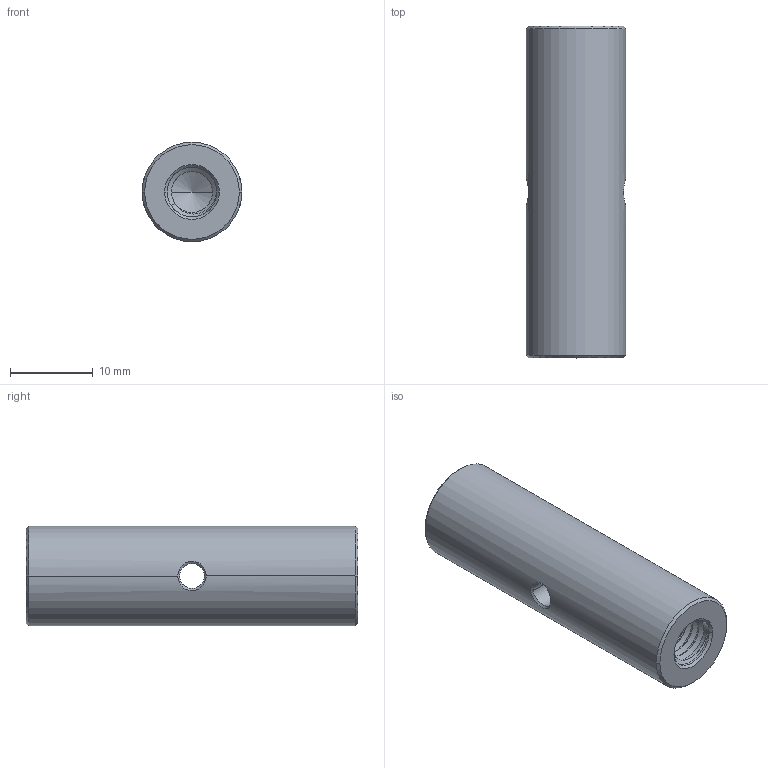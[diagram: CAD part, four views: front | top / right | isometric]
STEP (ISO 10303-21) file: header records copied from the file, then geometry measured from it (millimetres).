
FILE_DESCRIPTION((''),'2;1');
FILE_NAME('PCA4-S1','2020-12-11T',('Administrator'),(''),'CREO PARAMETRIC BY PTC INC, 2015290','CREO PARAMETRIC BY PTC INC, 2015290','');
FILE_SCHEMA(('CONFIG_CONTROL_DESIGN'));
Length unit declared in the file: millimetre
Products named in the file (1): PCA4-S1
Bounding box: 12 x 40 x 12 mm (x, y, z)
Volume: 4130 mm3; surface area: 2162.5 mm2
Topology: 1 solids, 1 shells, 76 faces, 204 edges, 126 vertices
Faces by surface type: cylinder 39, bspline 22, cone 12, plane 3
Entity records: 5747 total; most frequent: CARTESIAN_POINT 4094, ORIENTED_EDGE 400, DIRECTION 224, EDGE_CURVE 200, VERTEX_POINT 126, B_SPLINE_CURVE_WITH_KNOTS 105, EDGE_LOOP 78, FACE_OUTER_BOUND 76
